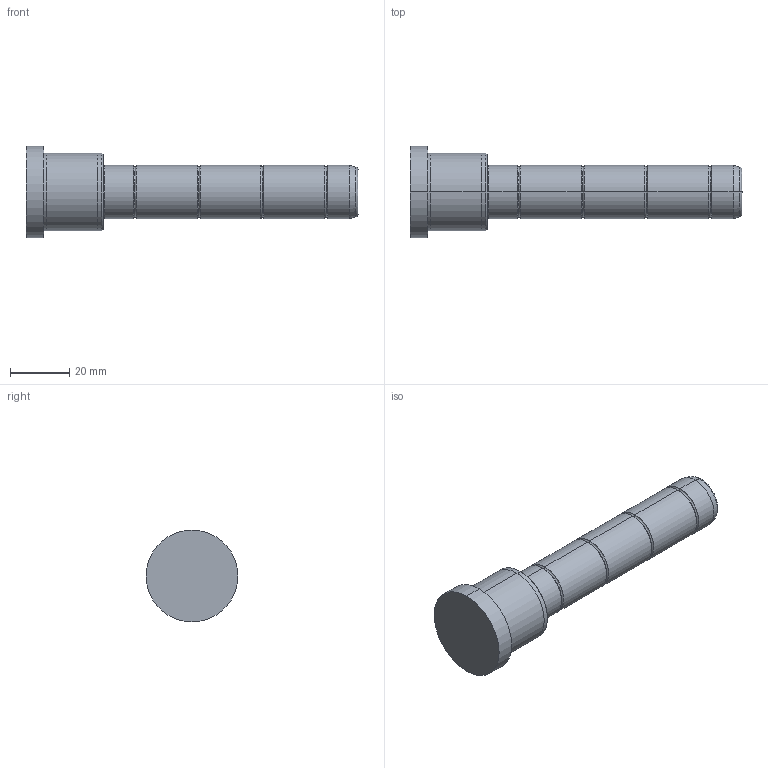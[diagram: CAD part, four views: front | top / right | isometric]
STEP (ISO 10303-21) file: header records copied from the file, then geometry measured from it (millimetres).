
FILE_DESCRIPTION( ( 'STEP AP203' ), '1' );
FILE_NAME( 'C:/Projects/D02 - 18x26x86.step', '2003-01-04T13:24:12', ( ' ' ), ( ' ' ), 'XStep 1.0', ' ', ' ' );
FILE_SCHEMA( ( 'CONFIG_CONTROL_DESIGN' ) );
Length unit declared in the file: metre
Products named in the file (1): 1
Bounding box: 112 x 31 x 31 mm (x, y, z)
Volume: 36879.8 mm3; surface area: 8616.5 mm2
Topology: 1 solids, 1 shells, 48 faces, 94 edges, 52 vertices
Faces by surface type: bspline 26, revolution 22
Entity records: 1523 total; most frequent: CARTESIAN_POINT 617, ORIENTED_EDGE 188, DIRECTION 150, EDGE_CURVE 94, AXIS2_PLACEMENT_3D 53, EDGE_LOOP 52, VERTEX_POINT 52, CIRCLE 52
